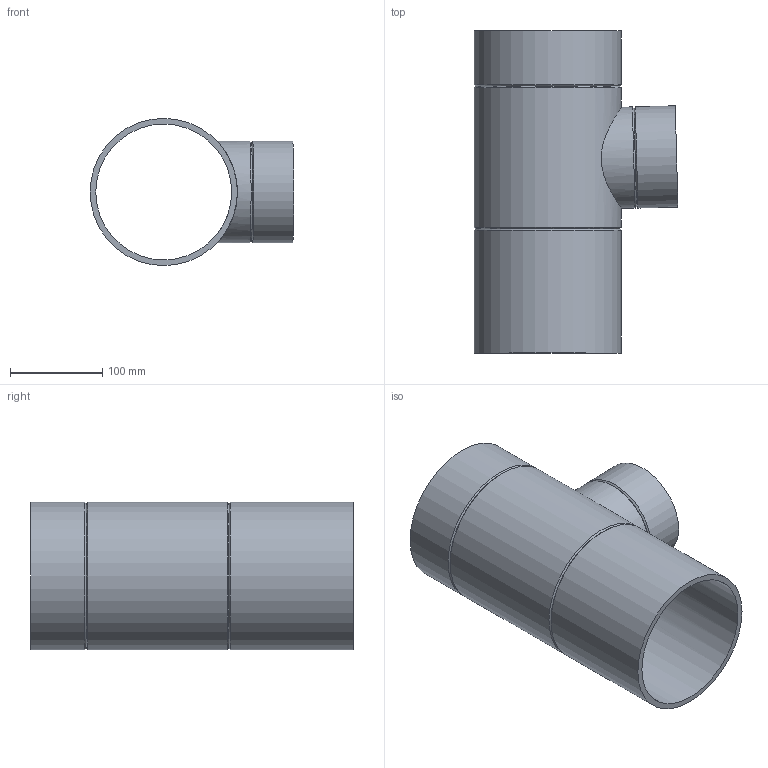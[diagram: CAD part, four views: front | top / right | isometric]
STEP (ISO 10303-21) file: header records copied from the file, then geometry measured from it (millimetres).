
FILE_DESCRIPTION(/* description */ (''),/* implementation_level */ '2;1');
FILE_NAME(/* name */ 'Z:\Geberit\Export\NewStep\369185.stp',/* time_stamp */ '2014-04-02T08:02:10+02:00',/* author */ ('nelson'),/* organization */ (''),/* preprocessor_version */ 'ST-DEVELOPER v15.2',/* originating_system */ 'Autodesk Inventor 2014',/* authorisation */ '');
FILE_SCHEMA (('AUTOMOTIVE_DESIGN { 1 0 10303 214 3 1 1 }'));
Length unit declared in the file: millimetre
Products named in the file (1): 369185
Bounding box: 221.39 x 350 x 160 mm (x, y, z)
Volume: 1090563.8 mm3; surface area: 377045 mm2
Topology: 1 solids, 1 shells, 16 faces, 37 edges, 23 vertices
Faces by surface type: cylinder 7, cone 6, plane 3
Full cylindrical faces by diameter (mm): 101.4 x1, 110 x2, 147.6 x1, 160 x3
Entity records: 503 total; most frequent: CARTESIAN_POINT 181, DIRECTION 64, EDGE_LOOP 34, ORIENTED_EDGE 34, AXIS2_PLACEMENT_3D 32, FACE_BOUND 22, VERTEX_POINT 17, EDGE_CURVE 17
